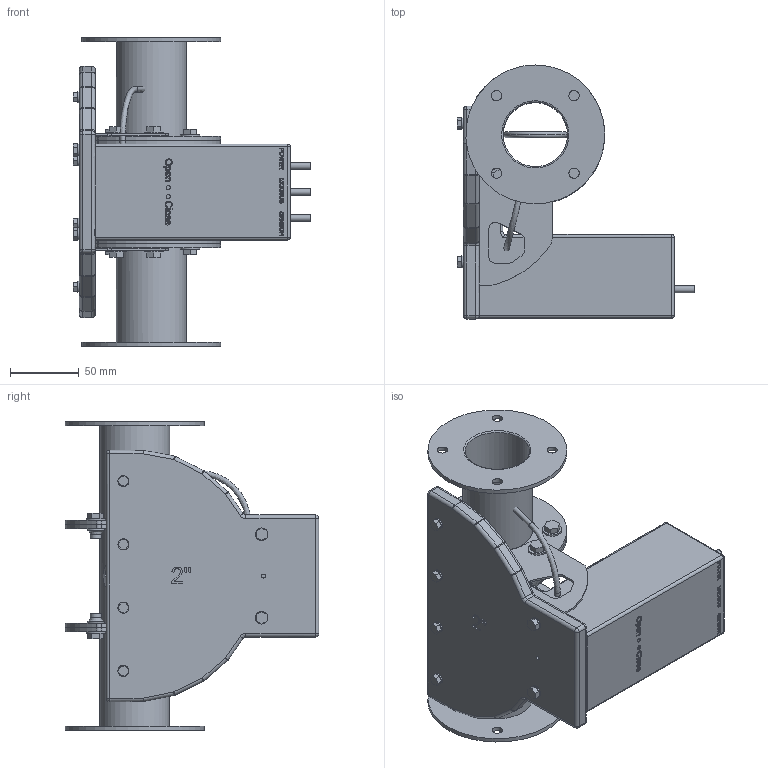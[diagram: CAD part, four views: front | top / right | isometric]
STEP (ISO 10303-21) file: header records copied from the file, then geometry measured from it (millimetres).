
FILE_DESCRIPTION( ('This file contains a STEP AP42 implementation' ,'as created by ZW3D STEP Interface translator.') ,'2;1' );
FILE_NAME( '3D Model-02_2M0 Butterfly Body with drive.stp' ,'22 2 8.111832', (''), ('ZWCAD Software Co.'), 'Version 1.0', 'ZW3D to STEP translator', '' );
FILE_SCHEMA(('AUTOMOTIVE_DESIGN'));
Length unit declared in the file: millimetre
Products named in the file (1): 0
Bounding box: 173.4 x 185.01 x 225 mm (x, y, z)
Volume: 1101709.6 mm3; surface area: 277354.5 mm2
Topology: 21 solids, 25 shells, 1047 faces, 2490 edges, 1643 vertices
Faces by surface type: bspline 1047
Entity records: 37461 total; most frequent: CARTESIAN_POINT 21182, ORIENTED_EDGE 4928, EDGE_CURVE 2458, B_SPLINE_CURVE_WITH_KNOTS 1844, VERTEX_POINT 1578, EDGE_LOOP 1248, FACE_OUTER_BOUND 1047, ADVANCED_FACE 1047
